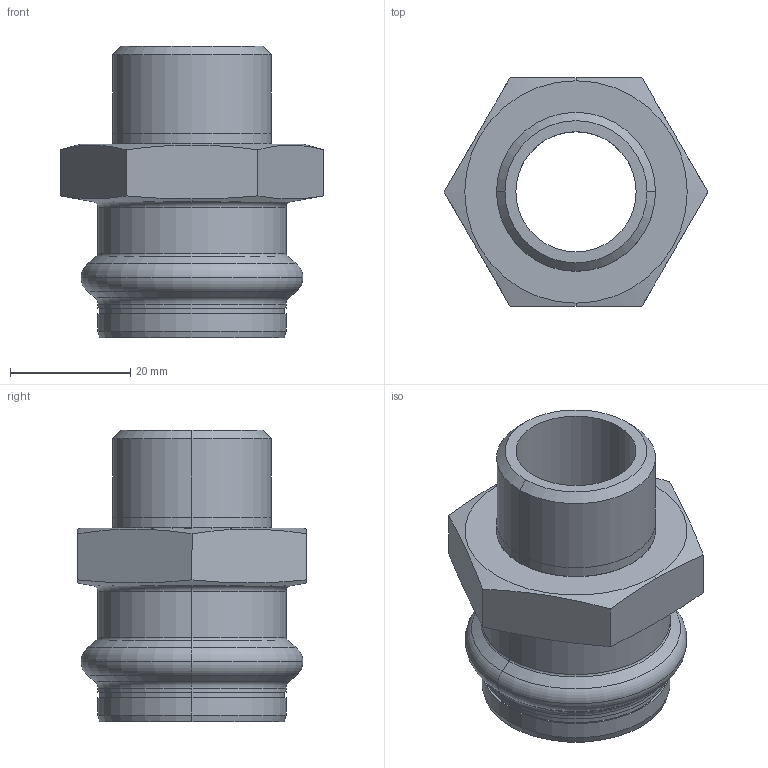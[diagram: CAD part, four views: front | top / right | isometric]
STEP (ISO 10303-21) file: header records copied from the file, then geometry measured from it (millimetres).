
FILE_DESCRIPTION(('CoCreate Modeling STEP Export'),'2;1');
FILE_NAME('8243GVW2834.stp','2013-03-05T10:36:21',(''),(''),'CoCreate Modeling STEP processor for AP214 (Solid Model)','CoCreate Modeling 17.00A 17-Jun-2010 (C) Parametric Technology GmbH','');
FILE_SCHEMA(('AUTOMOTIVE_DESIGN { 1 0 10303 214 1 1 1 1 }'));
Length unit declared in the file: millimetre
Products named in the file (1): 8243GVW2834
Bounding box: 43.88 x 38 x 48.5 mm (x, y, z)
Volume: 16432.3 mm3; surface area: 10615.7 mm2
Topology: 1 solids, 1 shells, 61 faces, 137 edges, 83 vertices
Faces by surface type: cylinder 22, cone 16, plane 13, torus 10
Entity records: 2140 total; most frequent: CARTESIAN_POINT 920, ORIENTED_EDGE 274, DIRECTION 206, EDGE_CURVE 137, VERTEX_POINT 83, AXIS2_PLACEMENT_3D 81, EDGE_LOOP 68, FACE_OUTER_BOUND 61
